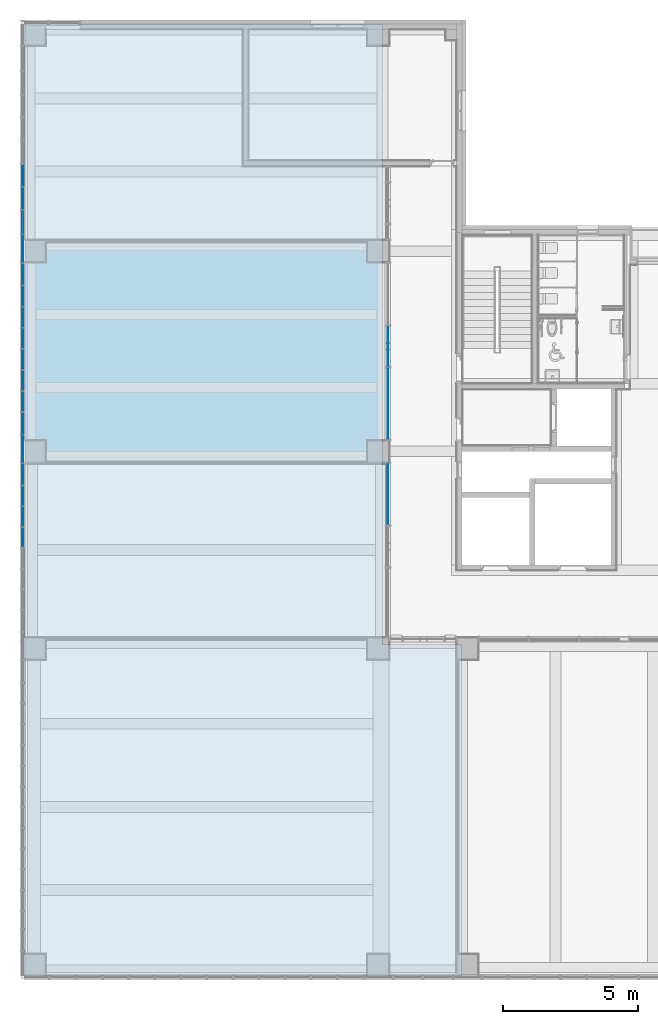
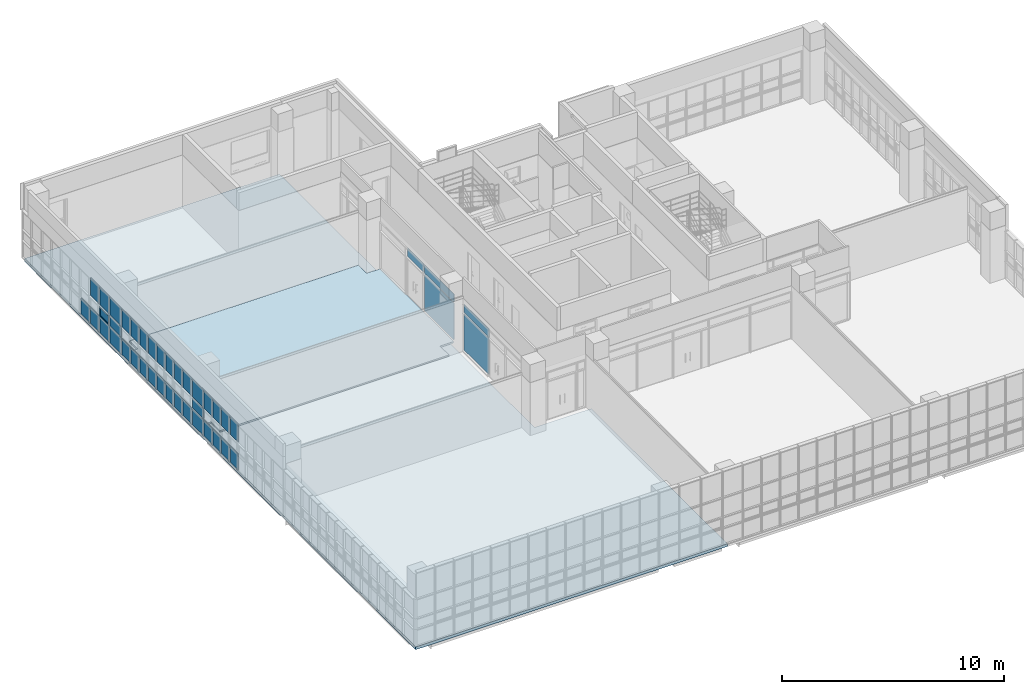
# One storey, part 33 of 76: 41 plates, 2 slabs, 3 elements without a shape of their own.
"""IFC2X3 building model written with IfcOpenShell, lengths in millimetres."""

import ifcopenshell
import ifcopenshell.guid

model = None  # the IFC model being written
_history = None  # IfcOwnerHistory: only IFC2X3 demands one
_inside = {}  # id of a spatial element -> (the spatial element, [elements in it])
_under = {}  # id of a project, library or spatial element -> (it, [spatial elements below it])
_declared = {}  # id of a project -> (the project, [libraries it declares])
_typed = {}  # id of a type object -> (the type object, [elements of that type])
_made_of = {}  # id of a material, layer set ... -> (it, [elements and type objects made of it])


def new_model(schema):
    """Start an empty IFC model of exactly this schema.

    Asked for "IFC4X3", IfcOpenShell would pick the latest addendum, in which some entities
    have other attributes; the version numbers below select the first issue.
    IFC2X3 requires an IfcOwnerHistory on every rooted entity: one is made here for all.
    """
    global model, _history
    if schema == "IFC4X3":
        model = ifcopenshell.file(schema_version=(4, 3, 0, 0))
    else:
        model = ifcopenshell.file(schema=schema)
    _inside.clear()
    _under.clear()
    _declared.clear()
    _typed.clear()
    _made_of.clear()
    _history = None
    if model.schema == "IFC2X3":
        org = make("IfcOrganization", Name="unknown")
        user = make(
            "IfcPersonAndOrganization",
            ThePerson=make("IfcPerson", FamilyName="unknown"),
            TheOrganization=org,
        )
        app = make(
            "IfcApplication",
            ApplicationDeveloper=org,
            Version="unknown",
            ApplicationFullName="unknown",
            ApplicationIdentifier="unknown",
        )
        _history = make(
            "IfcOwnerHistory",
            OwningUser=user,
            OwningApplication=app,
            ChangeAction="ADDED",
            CreationDate=0,
        )
    return model


def make(cls, **values):
    """One entity of the class cls with the attributes given. An attribute that is None is left unset."""
    return model.create_entity(
        cls, **{name: value for name, value in values.items() if value is not None}
    )


def entity(cls, *values):
    """Any entity or typed value of the class cls, its attributes in the order of the schema. None: left unset."""
    e = model.create_entity(cls)
    for i, value in enumerate(values):
        if value is not None:
            e[i] = value
    return e


def rooted(cls, **values):
    """An entity with a GlobalId (a new one), such as an element, a storey or a relation."""
    return make(cls, GlobalId=ifcopenshell.guid.new(), OwnerHistory=_history, **values)


def si_unit(unit_type, name, prefix=None):
    """IfcSIUnit, for example si_unit("LENGTHUNIT", "METRE", prefix="MILLI")."""
    return make("IfcSIUnit", UnitType=unit_type, Prefix=prefix, Name=name)


def converted_unit(unit_type, name, factor, base, dimensions=None, offset=None):
    """IfcConversionBasedUnit, such as the inch: factor (a typed value) times the base unit."""
    return make(
        "IfcConversionBasedUnit"
        if offset is None
        else "IfcConversionBasedUnitWithOffset",
        ConversionOffset=offset,
        Dimensions=None
        if dimensions is None
        else entity("IfcDimensionalExponents", *dimensions),
        UnitType=unit_type,
        Name=name,
        ConversionFactor=make(
            "IfcMeasureWithUnit", ValueComponent=factor, UnitComponent=base
        ),
    )


def derived_unit(unit_type, elements):
    """IfcDerivedUnit: a product of units, each with its exponent."""
    return make(
        "IfcDerivedUnit",
        Elements=[
            make("IfcDerivedUnitElement", Unit=unit, Exponent=power)
            for unit, power in elements
        ],
        UnitType=unit_type,
    )


def assignment(units):
    """IfcUnitAssignment: the units of a project."""
    return None if units is None else make("IfcUnitAssignment", Units=units)


def point(xyz):
    """IfcCartesianPoint."""
    return None if xyz is None else make("IfcCartesianPoint", Coordinates=xyz)


def direction(xyz):
    """IfcDirection."""
    return None if xyz is None else make("IfcDirection", DirectionRatios=xyz)


def frame(location, z_axis=None, x_axis=None):
    """IfcAxis2Placement3D, a coordinate frame: its origin and axes. An axis left out is left unset."""
    return make(
        "IfcAxis2Placement3D",
        Location=point(location),
        Axis=direction(z_axis),
        RefDirection=direction(x_axis),
    )


def frame_2d(location, x_axis=None):
    """IfcAxis2Placement2D, a coordinate frame in the plane: its origin and x axis."""
    return make(
        "IfcAxis2Placement2D", Location=point(location), RefDirection=direction(x_axis)
    )


def origin():
    """The frame at (0, 0, 0) with its axes left unset."""
    return frame((0.0, 0.0, 0.0))


def origin_2d_with_axis():
    """The frame at (0, 0) in the plane with the x axis (1, 0) written out."""
    return frame_2d((0.0, 0.0), x_axis=(1.0, 0.0))


def place(relative_to, where):
    """IfcLocalPlacement: puts the frame where relative to a parent placement (None: the world)."""
    return make(
        "IfcLocalPlacement", PlacementRelTo=relative_to, RelativePlacement=where
    )


def context(
    kind, dimensions, precision=None, world=None, true_north=None, identifier=None
):
    """IfcGeometricRepresentationContext, for example the 3D "Model" context."""
    return make(
        "IfcGeometricRepresentationContext",
        ContextIdentifier=identifier,
        ContextType=kind,
        CoordinateSpaceDimension=dimensions,
        Precision=precision,
        WorldCoordinateSystem=world,
        TrueNorth=true_north,
    )


def subcontext(parent, identifier, kind, view, scale=None):
    """IfcGeometricRepresentationSubContext, for example "Body" below "Model"."""
    return make(
        "IfcGeometricRepresentationSubContext",
        ContextIdentifier=identifier,
        ContextType=kind,
        ParentContext=parent,
        TargetScale=scale,
        TargetView=view,
    )


def project(units=None, contexts=None):
    """IfcProject with its units and contexts."""
    return rooted(
        "IfcProject",
        Name="project",
        RepresentationContexts=contexts,
        UnitsInContext=assignment(units),
    )


def spatial(cls, under=None, at=None, **own):
    """A site, building, storey or space (cls), placed at a placement, below another one or the project."""
    s = rooted(cls, ObjectPlacement=at, **own)
    if under is not None:
        _under.setdefault(under.id(), (under, []))[1].append(s)
    return s


def polyline(points):
    """IfcPolyline through the points."""
    return make("IfcPolyline", Points=[point(p) for p in points])


def profile(cls, at=None, kind="AREA", **sizes):
    """A parametric profile (cls). Its sizes go by their IFC names, for example OverallWidth=200.0."""
    return make(cls, ProfileType=kind, Position=at, **sizes)


def rectangle(**sizes):
    """IfcRectangleProfileDef."""
    return profile("IfcRectangleProfileDef", **sizes)


def outline(outer, holes=None, kind="AREA"):
    """IfcArbitraryClosedProfileDef: a profile drawn as a closed curve; with holes, ...WithVoids."""
    if holes is None:
        return make("IfcArbitraryClosedProfileDef", ProfileType=kind, OuterCurve=outer)
    return make(
        "IfcArbitraryProfileDefWithVoids",
        ProfileType=kind,
        OuterCurve=outer,
        InnerCurves=holes,
    )


def extrude(swept, where, along, depth):
    """IfcExtrudedAreaSolid: the profile swept, set in the frame where, extruded along a direction by depth."""
    return make(
        "IfcExtrudedAreaSolid",
        SweptArea=swept,
        Position=where,
        ExtrudedDirection=direction(along),
        Depth=depth,
    )


def shape(context_of_items, identifier, shape_type, items):
    """IfcShapeRepresentation: the items that make up one representation, for example the "Body"."""
    return make(
        "IfcShapeRepresentation",
        ContextOfItems=context_of_items,
        RepresentationIdentifier=identifier,
        RepresentationType=shape_type,
        Items=items,
    )


def source(mapping_origin, context_of_items, identifier, shape_type, items):
    """IfcRepresentationMap: a shape defined once, which mapped items show again and again."""
    return make(
        "IfcRepresentationMap",
        MappingOrigin=mapping_origin,
        MappedRepresentation=shape(context_of_items, identifier, shape_type, items),
    )


def transform(
    local_origin,
    x_axis=None,
    y_axis=None,
    z_axis=None,
    scale=None,
    scale2=None,
    scale3=None,
    uniform=True,
):
    """IfcCartesianTransformationOperator3D, or its non-uniform kind. x_axis, y_axis, z_axis: its Axis1, 2, 3."""
    if uniform:
        return make(
            "IfcCartesianTransformationOperator3D",
            Axis1=direction(x_axis),
            Axis2=direction(y_axis),
            LocalOrigin=point(local_origin),
            Scale=scale,
            Axis3=direction(z_axis),
        )
    return make(
        "IfcCartesianTransformationOperator3DnonUniform",
        Axis1=direction(x_axis),
        Axis2=direction(y_axis),
        LocalOrigin=point(local_origin),
        Scale=scale,
        Axis3=direction(z_axis),
        Scale2=scale2,
        Scale3=scale3,
    )


def mapped(mapping_source, mapping_target):
    """IfcMappedItem: shows the shape of a source again, moved by a transform."""
    return make(
        "IfcMappedItem", MappingSource=mapping_source, MappingTarget=mapping_target
    )


def material(Name=None, Category=None):
    """IfcMaterial."""
    return make("IfcMaterial", Name=Name, Category=Category)


def material_list(materials):
    """IfcMaterialList."""
    return make("IfcMaterialList", Materials=materials)


def layer(
    of_material, thickness, ventilated=None, Name=None, Category=None, Priority=None
):
    """IfcMaterialLayer: one layer of a wall or slab, of a material (None: an air gap)."""
    return make(
        "IfcMaterialLayer",
        Material=of_material,
        LayerThickness=thickness,
        IsVentilated=ventilated,
        Name=Name,
        Category=Category,
        Priority=Priority,
    )


def layer_set(layers, Name=None):
    """IfcMaterialLayerSet."""
    return make("IfcMaterialLayerSet", MaterialLayers=layers, LayerSetName=Name)


def layer_usage(for_layer_set, set_direction, sense, offset, extent=None):
    """IfcMaterialLayerSetUsage: how a layer set lies in its element."""
    return make(
        "IfcMaterialLayerSetUsage",
        ForLayerSet=for_layer_set,
        LayerSetDirection=set_direction,
        DirectionSense=sense,
        OffsetFromReferenceLine=offset,
        ReferenceExtent=extent,
    )


def made_of(thing, what):
    """Note that an element or type object is made of a material, layer set ...; save() writes the relation."""
    if what is not None:
        _made_of.setdefault(what.id(), (what, []))[1].append(thing)
    return thing


def type_object(cls, material=None, **own):
    """A type object (cls), such as IfcWallType, which elements share."""
    return made_of(rooted(cls, **own), material)


def type_shapes(of_type, sources):
    """Give a type object the sources (RepresentationMaps) that its elements show as mapped items."""
    of_type.RepresentationMaps = sources


def element(
    cls,
    number,
    at=None,
    inside=None,
    cuts=None,
    type_object=None,
    material=None,
    context=None,
    identifier="Body",
    shape_type=None,
    held_by="IfcProductDefinitionShape",
    body=None,
    shapes=None,
    **own,
):
    """One element of the class cls, such as IfcWall. Its Tag is "e" and its number.

    at: its placement. inside: the storey or other place that contains it. cuts: it is an
    opening in that element (IfcRelVoidsElement). A single representation is given by context,
    identifier, shape_type and body (its items); several are given by shapes. held_by: the class
    of the entity that holds the representations. save() writes the other relations.
    """
    e = rooted(cls, Tag="e%d" % number, ObjectPlacement=at, **own)
    if body is not None:
        shapes = [shape(context, identifier, shape_type, body)]
    if shapes is not None:
        e.Representation = make(held_by, Representations=shapes)
    if inside is not None:
        _inside.setdefault(inside.id(), (inside, []))[1].append(e)
    if cuts is not None:
        rooted(
            "IfcRelVoidsElement", RelatingBuildingElement=cuts, RelatedOpeningElement=e
        )
    if type_object is not None:
        _typed.setdefault(type_object.id(), (type_object, []))[1].append(e)
    return made_of(e, material)


def aggregate(whole, parts):
    """IfcRelAggregates: a whole, such as a stair, and the parts it consists of."""
    return rooted("IfcRelAggregates", RelatingObject=whole, RelatedObjects=parts)


def save(model, path):
    """Write the relations noted so far, then the file.

    IfcRelAggregates (storeys below a building ...), IfcRelContainedInSpatialStructure (elements
    in a storey), IfcRelDefinesByType, IfcRelAssociatesMaterial and IfcRelDeclares: one each for
    every whole, place, type object, material and project.
    """
    for whole, parts in _under.values():
        aggregate(whole, parts)
    for where, things in _inside.values():
        rooted(
            "IfcRelContainedInSpatialStructure",
            RelatedElements=things,
            RelatingStructure=where,
        )
    for kind, things in _typed.values():
        rooted("IfcRelDefinesByType", RelatedObjects=things, RelatingType=kind)
    for what, things in _made_of.values():
        rooted("IfcRelAssociatesMaterial", RelatedObjects=things, RelatingMaterial=what)
    for by, libraries in _declared.values():
        rooted("IfcRelDeclares", RelatingContext=by, RelatedDefinitions=libraries)
    model.write(path)


model = new_model("IFC2X3")

# Units and contexts
model_context = context("Model", 3, precision=0.01, world=origin(), true_north=direction((6.123031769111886e-17, 1.0)))
body_context = subcontext(model_context, "Body", "Model", "MODEL_VIEW")
ifc_project = project(units=[si_unit("LENGTHUNIT", "METRE", prefix="MILLI"), si_unit("AREAUNIT", "SQUARE_METRE"), si_unit("VOLUMEUNIT", "CUBIC_METRE"), converted_unit("PLANEANGLEUNIT", "DEGREE", entity("IfcRatioMeasure", 0.017453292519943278), si_unit("PLANEANGLEUNIT", "RADIAN"), dimensions=[0, 0, 0, 0, 0, 0, 0]), si_unit("MASSUNIT", "GRAM", prefix="KILO"), derived_unit("MASSDENSITYUNIT", [(si_unit("MASSUNIT", "GRAM", prefix="KILO"), 1), (si_unit("LENGTHUNIT", "METRE"), -3)]), derived_unit("MOMENTOFINERTIAUNIT", [(si_unit("LENGTHUNIT", "METRE"), 4)]), si_unit("TIMEUNIT", "SECOND"), si_unit("FREQUENCYUNIT", "HERTZ"), si_unit("THERMODYNAMICTEMPERATUREUNIT", "DEGREE_CELSIUS"), derived_unit("THERMALTRANSMITTANCEUNIT", [(si_unit("MASSUNIT", "GRAM", prefix="KILO"), 1), (si_unit("THERMODYNAMICTEMPERATUREUNIT", "KELVIN"), -1), (si_unit("TIMEUNIT", "SECOND"), -3)]), derived_unit("VOLUMETRICFLOWRATEUNIT", [(si_unit("LENGTHUNIT", "METRE"), 3), (si_unit("TIMEUNIT", "SECOND"), -1)]), derived_unit("MASSFLOWRATEUNIT", [(si_unit("MASSUNIT", "GRAM", prefix="KILO"), 1), (si_unit("TIMEUNIT", "SECOND"), -1)]), derived_unit("ROTATIONALFREQUENCYUNIT", [(si_unit("TIMEUNIT", "SECOND"), -1)]), si_unit("ELECTRICCURRENTUNIT", "AMPERE"), si_unit("ELECTRICVOLTAGEUNIT", "VOLT"), si_unit("POWERUNIT", "WATT"), si_unit("FORCEUNIT", "NEWTON", prefix="KILO"), si_unit("ILLUMINANCEUNIT", "LUX"), si_unit("LUMINOUSFLUXUNIT", "LUMEN"), si_unit("LUMINOUSINTENSITYUNIT", "CANDELA"), derived_unit("USERDEFINED", [(si_unit("MASSUNIT", "GRAM", prefix="KILO"), -1), (si_unit("LENGTHUNIT", "METRE"), -2), (si_unit("TIMEUNIT", "SECOND"), 3), (si_unit("LUMINOUSFLUXUNIT", "LUMEN"), 1)]), derived_unit("SOUNDPOWERUNIT", [(si_unit("MASSUNIT", "GRAM", prefix="KILO"), 1), (si_unit("LENGTHUNIT", "METRE"), 2), (si_unit("TIMEUNIT", "SECOND"), -3)]), derived_unit("SOUNDPRESSUREUNIT", [(si_unit("MASSUNIT", "GRAM", prefix="KILO"), 1), (si_unit("LENGTHUNIT", "METRE"), -1), (si_unit("TIMEUNIT", "SECOND"), -2)]), derived_unit("LINEARVELOCITYUNIT", [(si_unit("LENGTHUNIT", "METRE"), 1), (si_unit("TIMEUNIT", "SECOND"), -1)]), si_unit("PRESSUREUNIT", "PASCAL"), derived_unit("USERDEFINED", [(si_unit("LENGTHUNIT", "METRE"), -2), (si_unit("MASSUNIT", "GRAM", prefix="KILO"), 1), (si_unit("TIMEUNIT", "SECOND"), -2)]), derived_unit("LINEARFORCEUNIT", [(si_unit("MASSUNIT", "GRAM", prefix="KILO"), 1), (si_unit("LENGTHUNIT", "METRE"), 1), (si_unit("TIMEUNIT", "SECOND"), -2), (si_unit("LENGTHUNIT", "METRE"), -1)]), derived_unit("PLANARFORCEUNIT", [(si_unit("MASSUNIT", "GRAM", prefix="KILO"), 1), (si_unit("LENGTHUNIT", "METRE"), 1), (si_unit("TIMEUNIT", "SECOND"), -2), (si_unit("LENGTHUNIT", "METRE"), -2)])], contexts=[model_context])

# Site, building, storey
site_placement = place(None, frame((-14167.972527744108, -657.2125860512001, 0.0)))
site = spatial("IfcSite", under=ifc_project, at=site_placement, Name="Default", CompositionType="ELEMENT")
building_placement = place(site_placement, origin())
building = spatial("IfcBuilding", under=site, at=building_placement, Name="Sample Building", CompositionType="ELEMENT")
storey_placement = place(building_placement, frame((0.0, 0.0, 9300.0)))
storey = spatial("IfcBuildingStorey", under=building, at=storey_placement, Name="지상 3층", CompositionType="ELEMENT", Elevation=9300.000000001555)

# Slab
ifc_material_1 = material(Name="KBIMS-콘크리트")
ifc_layer_1 = layer(ifc_material_1, 150.0)
ifc_layer_set_1 = layer_set([ifc_layer_1], Name="바닥:SL111-철근콘크리트구조 바닥 150mm_S1")
ifc_layer_usage_1 = layer_usage(ifc_layer_set_1, "AXIS3", "POSITIVE", 0.0)
slab_type_1 = type_object("IfcSlabType", Name="바닥:SL111-철근콘크리트구조 바닥 150mm_S1", PredefinedType="FLOOR", material=ifc_layer_set_1)
slab_1_placement = place(storey_placement, origin())
element("IfcSlab", 1, at=slab_1_placement, inside=storey, type_object=slab_type_1, material=ifc_layer_usage_1, Name="바닥:SL111-철근콘크리트구조 바닥 150mm_S1", ObjectType="바닥:SL111-철근콘크리트구조 바닥 150mm_S1", PredefinedType="FLOOR", context=body_context, shape_type="SweptSolid", body=[
    extrude(outline(polyline([(-15816.666733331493, -9816.694598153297), (19383.333366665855, -9816.694598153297), (19383.333366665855, 3433.331560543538), (-3566.666633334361, 3433.3315605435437), (-3566.6666333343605, 6383.314094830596), (-15816.666733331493, 6383.314094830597), (-15816.666733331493, -9816.694598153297)])), frame((23884.649703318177, 16373.878928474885, 0.0), z_axis=(0.0, 0.0, -1.0), x_axis=(0.0, 1.0, 0.0)), (0.0, 0.0, 1.0), 150.00000000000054),
])

# Curtain wall, plates
curtain_wall_type = type_object("IfcCurtainWallType", Name="커튼월:CW112-스테인리스 스틸 커튼월", PredefinedType="NOTDEFINED")
curtain_wall_1_placement = place(storey_placement, frame((0.0, 0.0, -9300.0)))
curtain_wall_1 = element("IfcCurtainWall", 2, at=curtain_wall_1_placement, inside=storey, type_object=curtain_wall_type, Name="커튼월:CW112-스테인리스 스틸 커튼월", ObjectType="커튼월:CW112-스테인리스 스틸 커튼월")
ifc_material_2 = material(Name="KBIMS-로이유리(코팅)")
plate_type_1 = type_object("IfcPlateType", Name="CW300-THK24.Low-e coating glass:CW300-THK24.Low-e coating glass", PredefinedType="CURTAIN_PANEL", material=ifc_material_2)
shared_shape_1 = source(origin(), body_context, "Body", "SweptSolid", [
    extrude(rectangle(XDim=2634.9999999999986, YDim=24.000000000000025, at=origin_2d_with_axis()), frame((0.0, 0.0, 0.0), z_axis=(0.0, 0.0, 1.0), x_axis=(-1.0, 0.0, 0.0)), (0.0, 0.0, 1.0), 2024.9999999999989),
])
type_shapes(plate_type_1, [shared_shape_1])
plate_1_placement = place(curtain_wall_1_placement, frame((27522.95510516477, 21724.712307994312, 9430.0), z_axis=(0.0, 0.0, 1.0), x_axis=(0.0, -1.0, 0.0)))
plate_1 = element("IfcPlate", 3, at=plate_1_placement, type_object=plate_type_1, material=ifc_material_2, Name="CW300-THK24.Low-e coating glass:CW300-THK24.Low-e coating glass", ObjectType="CW300-THK24.Low-e coating glass:CW300-THK24.Low-e coating glass", context=body_context, shape_type="MappedRepresentation", body=[
    mapped(shared_shape_1, transform((0.0, 0.0, 0.0), scale=1.0)),
])
plate_type_2 = type_object("IfcPlateType", Name="CW300-THK24.Low-e coating glass:CW300-THK24.Low-e coating glass", PredefinedType="CURTAIN_PANEL", material=ifc_material_2)
shared_shape_2 = source(origin(), body_context, "Body", "SweptSolid", [
    extrude(rectangle(XDim=1500.0000000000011, YDim=24.000000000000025, at=origin_2d_with_axis()), frame((0.0, 0.0, 0.0), z_axis=(0.0, 0.0, 1.0), x_axis=(-1.0, 0.0, 0.0)), (0.0, 0.0, 1.0), 445.00000000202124),
])
type_shapes(plate_type_2, [shared_shape_2])
plate_2_placement = place(curtain_wall_1_placement, frame((27522.955105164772, 23842.21230799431, 11505.0), z_axis=(0.0, 0.0, 1.0), x_axis=(0.0, -1.0, 0.0)))
plate_2 = element("IfcPlate", 4, at=plate_2_placement, type_object=plate_type_2, material=ifc_material_2, Name="CW300-THK24.Low-e coating glass:CW300-THK24.Low-e coating glass", ObjectType="CW300-THK24.Low-e coating glass:CW300-THK24.Low-e coating glass", context=body_context, shape_type="MappedRepresentation", body=[
    mapped(shared_shape_2, transform((0.0, 0.0, 0.0), scale=1.0)),
])
plate_type_3 = type_object("IfcPlateType", Name="CW300-THK24.Low-e coating glass:CW300-THK24.Low-e coating glass", PredefinedType="CURTAIN_PANEL", material=ifc_material_2)
shared_shape_3 = source(origin(), body_context, "Body", "SweptSolid", [
    extrude(rectangle(XDim=2634.9999999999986, YDim=24.000000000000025, at=origin_2d_with_axis()), frame((0.0, 0.0, 0.0), z_axis=(0.0, 0.0, 1.0), x_axis=(-1.0, 0.0, 0.0)), (0.0, 0.0, 1.0), 445.00000000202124),
])
type_shapes(plate_type_3, [shared_shape_3])
plate_3_placement = place(curtain_wall_1_placement, frame((27522.95510516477, 21724.712307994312, 11505.0), z_axis=(0.0, 0.0, 1.0), x_axis=(0.0, -1.0, 0.0)))
plate_3 = element("IfcPlate", 5, at=plate_3_placement, type_object=plate_type_3, material=ifc_material_2, Name="CW300-THK24.Low-e coating glass:CW300-THK24.Low-e coating glass", ObjectType="CW300-THK24.Low-e coating glass:CW300-THK24.Low-e coating glass", context=body_context, shape_type="MappedRepresentation", body=[
    mapped(shared_shape_3, transform((0.0, 0.0, 0.0), scale=1.0)),
])
aggregate(curtain_wall_1, [plate_1, plate_2, plate_3])

# Curtain wall, plate
curtain_wall_2_placement = place(storey_placement, frame((0.0, 0.0, -9300.0)))
curtain_wall_2 = element("IfcCurtainWall", 6, at=curtain_wall_2_placement, inside=storey, type_object=curtain_wall_type, Name="커튼월:CW112-스테인리스 스틸 커튼월", ObjectType="커튼월:CW112-스테인리스 스틸 커튼월")
plate_type_4 = type_object("IfcPlateType", Name="CW300-THK24.Low-e coating glass:CW300-THK24.Low-e coating glass", PredefinedType="CURTAIN_PANEL", material=ifc_material_2)
shared_shape_4 = source(origin(), body_context, "Body", "SweptSolid", [
    extrude(rectangle(XDim=2265.03499264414, YDim=24.000000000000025, at=origin_2d_with_axis()), frame((0.0, 0.0, 0.0), z_axis=(0.0, 0.0, 1.0), x_axis=(-1.0, 0.0, 0.0)), (0.0, 0.0, 1.0), 445.0000000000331),
])
type_shapes(plate_type_4, [shared_shape_4])
plate_4_placement = place(curtain_wall_2_placement, frame((27522.955105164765, 18374.695120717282, 11505.0), z_axis=(0.0, 0.0, 1.0), x_axis=(0.0, -1.0, 0.0)))
plate_4 = element("IfcPlate", 7, at=plate_4_placement, type_object=plate_type_4, material=ifc_material_2, Name="CW300-THK24.Low-e coating glass:CW300-THK24.Low-e coating glass", ObjectType="CW300-THK24.Low-e coating glass:CW300-THK24.Low-e coating glass", context=body_context, shape_type="MappedRepresentation", body=[
    mapped(shared_shape_4, transform((0.0, 0.0, 0.0), scale=1.0)),
])

# Curtain wall, plates
curtain_wall_3_placement = place(storey_placement, frame((0.0, 0.0, -9300.0)))
curtain_wall_3 = element("IfcCurtainWall", 8, at=curtain_wall_3_placement, inside=storey, type_object=curtain_wall_type, Name="커튼월:CW112-스테인리스 스틸 커튼월", ObjectType="커튼월:CW112-스테인리스 스틸 커튼월")
plate_type_5 = type_object("IfcPlateType", Name="CW300-THK24.Low-e coating glass:CW300-THK24.Low-e coating glass", PredefinedType="CURTAIN_PANEL", material=ifc_material_2)
shared_shape_5 = source(origin(), body_context, "Body", "SweptSolid", [
    extrude(rectangle(XDim=804.0000000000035, YDim=24.000000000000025, at=origin_2d_with_axis()), frame((0.0, 0.0, 0.0), z_axis=(0.0, 0.0, 1.0), x_axis=(-1.0, 0.0, 0.0)), (0.0, 0.0, 1.0), 875.0000000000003),
])
type_shapes(plate_type_5, [shared_shape_5])
plate_5_placement = place(curtain_wall_3_placement, frame((14018.587904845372, 30166.81770709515, 9430.0), z_axis=(0.0, 0.0, 1.0), x_axis=(0.0, -1.0, 0.0)))
plate_5 = element("IfcPlate", 9, at=plate_5_placement, type_object=plate_type_5, material=ifc_material_2, Name="CW300-THK24.Low-e coating glass:CW300-THK24.Low-e coating glass", ObjectType="CW300-THK24.Low-e coating glass:CW300-THK24.Low-e coating glass", context=body_context, shape_type="MappedRepresentation", body=[
    mapped(shared_shape_5, transform((0.0, 0.0, 0.0), scale=1.0)),
])
plate_6_placement = place(curtain_wall_3_placement, frame((14018.587904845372, 29312.817707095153, 9430.0), z_axis=(0.0, 0.0, 1.0), x_axis=(0.0, -1.0, 0.0)))
plate_6 = element("IfcPlate", 10, at=plate_6_placement, type_object=plate_type_5, material=ifc_material_2, Name="CW300-THK24.Low-e coating glass:CW300-THK24.Low-e coating glass", ObjectType="CW300-THK24.Low-e coating glass:CW300-THK24.Low-e coating glass", context=body_context, shape_type="MappedRepresentation", body=[
    mapped(shared_shape_5, transform((0.0, 0.0, 0.0), scale=1.0)),
])
plate_type_6 = type_object("IfcPlateType", Name="CW300-THK24.Low-e coating glass:CW300-THK24.Low-e coating glass", PredefinedType="CURTAIN_PANEL", material=ifc_material_2)
shared_shape_6 = source(origin(), body_context, "Body", "SweptSolid", [
    extrude(rectangle(XDim=864.0000000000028, YDim=24.000000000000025, at=origin_2d_with_axis()), frame((0.0, 0.0, 0.0), z_axis=(0.0, 0.0, 1.0), x_axis=(-1.0, 0.0, 0.0)), (0.0, 0.0, 1.0), 875.0000000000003),
])
type_shapes(plate_type_6, [shared_shape_6])
plate_7_placement = place(curtain_wall_3_placement, frame((14018.58790484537, 28428.81770709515, 9430.0), z_axis=(0.0, 0.0, 1.0), x_axis=(0.0, -1.0, 0.0)))
plate_7 = element("IfcPlate", 11, at=plate_7_placement, type_object=plate_type_6, material=ifc_material_2, Name="CW300-THK24.Low-e coating glass:CW300-THK24.Low-e coating glass", ObjectType="CW300-THK24.Low-e coating glass:CW300-THK24.Low-e coating glass", context=body_context, shape_type="MappedRepresentation", body=[
    mapped(shared_shape_6, transform((0.0, 0.0, 0.0), scale=1.0)),
])
plate_type_7 = type_object("IfcPlateType", Name="CW300-THK24.Low-e coating glass:CW300-THK24.Low-e coating glass", PredefinedType="CURTAIN_PANEL", material=ifc_material_2)
shared_shape_7 = source(origin(), body_context, "Body", "SweptSolid", [
    extrude(rectangle(XDim=1000.0000000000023, YDim=24.000000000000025, at=origin_2d_with_axis()), frame((0.0, 0.0, 0.0), z_axis=(0.0, 0.0, 1.0), x_axis=(-1.0, 0.0, 0.0)), (0.0, 0.0, 1.0), 875.0000000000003),
])
type_shapes(plate_type_7, [shared_shape_7])
plate_8_placement = place(curtain_wall_3_placement, frame((14018.587904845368, 27446.817707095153, 9430.0), z_axis=(0.0, 0.0, 1.0), x_axis=(0.0, -1.0, 0.0)))
plate_8 = element("IfcPlate", 12, at=plate_8_placement, type_object=plate_type_7, material=ifc_material_2, Name="CW300-THK24.Low-e coating glass:CW300-THK24.Low-e coating glass", ObjectType="CW300-THK24.Low-e coating glass:CW300-THK24.Low-e coating glass", context=body_context, shape_type="MappedRepresentation", body=[
    mapped(shared_shape_7, transform((0.0, 0.0, 0.0), scale=1.0)),
])
plate_9_placement = place(curtain_wall_3_placement, frame((14018.587904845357, 20044.81770709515, 9430.0), z_axis=(0.0, 0.0, 1.0), x_axis=(0.0, -1.0, 0.0)))
plate_9 = element("IfcPlate", 13, at=plate_9_placement, type_object=plate_type_7, material=ifc_material_2, Name="CW300-THK24.Low-e coating glass:CW300-THK24.Low-e coating glass", ObjectType="CW300-THK24.Low-e coating glass:CW300-THK24.Low-e coating glass", context=body_context, shape_type="MappedRepresentation", body=[
    mapped(shared_shape_7, transform((0.0, 0.0, 0.0), scale=1.0)),
])
plate_type_8 = type_object("IfcPlateType", Name="CW300-THK24.Low-e coating glass:CW300-THK24.Low-e coating glass", PredefinedType="CURTAIN_PANEL", material=ifc_material_2)
shared_shape_8 = source(origin(), body_context, "Body", "SweptSolid", [
    extrude(rectangle(XDim=789.0000000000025, YDim=24.000000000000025, at=origin_2d_with_axis()), frame((0.0, 0.0, 0.0), z_axis=(0.0, 0.0, 1.0), x_axis=(-1.0, 0.0, 0.0)), (0.0, 0.0, 1.0), 875.0000000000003),
])
type_shapes(plate_type_8, [shared_shape_8])
plate_10_placement = place(curtain_wall_3_placement, frame((14018.587904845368, 26502.31770709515, 9430.0), z_axis=(0.0, 0.0, 1.0), x_axis=(0.0, -1.0, 0.0)))
plate_10 = element("IfcPlate", 14, at=plate_10_placement, type_object=plate_type_8, material=ifc_material_2, Name="CW300-THK24.Low-e coating glass:CW300-THK24.Low-e coating glass", ObjectType="CW300-THK24.Low-e coating glass:CW300-THK24.Low-e coating glass", context=body_context, shape_type="MappedRepresentation", body=[
    mapped(shared_shape_8, transform((0.0, 0.0, 0.0), scale=1.0)),
])
plate_11_placement = place(curtain_wall_3_placement, frame((14018.587904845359, 20989.317707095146, 9430.0), z_axis=(0.0, 0.0, 1.0), x_axis=(0.0, -1.0, 0.0)))
plate_11 = element("IfcPlate", 15, at=plate_11_placement, type_object=plate_type_8, material=ifc_material_2, Name="CW300-THK24.Low-e coating glass:CW300-THK24.Low-e coating glass", ObjectType="CW300-THK24.Low-e coating glass:CW300-THK24.Low-e coating glass", context=body_context, shape_type="MappedRepresentation", body=[
    mapped(shared_shape_8, transform((0.0, 0.0, 0.0), scale=1.0)),
])
plate_type_9 = type_object("IfcPlateType", Name="CW300-THK24.Low-e coating glass:CW300-THK24.Low-e coating glass", PredefinedType="CURTAIN_PANEL", material=ifc_material_2)
shared_shape_9 = source(origin(), body_context, "Body", "SweptSolid", [
    extrude(rectangle(XDim=729.0000000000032, YDim=24.000000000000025, at=origin_2d_with_axis()), frame((0.0, 0.0, 0.0), z_axis=(0.0, 0.0, 1.0), x_axis=(-1.0, 0.0, 0.0)), (0.0, 0.0, 1.0), 875.0000000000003),
])
type_shapes(plate_type_9, [shared_shape_9])
plate_12_placement = place(curtain_wall_3_placement, frame((14018.587904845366, 25693.317707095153, 9430.0), z_axis=(0.0, 0.0, 1.0), x_axis=(0.0, -1.0, 0.0)))
plate_12 = element("IfcPlate", 16, at=plate_12_placement, type_object=plate_type_9, material=ifc_material_2, Name="CW300-THK24.Low-e coating glass:CW300-THK24.Low-e coating glass", ObjectType="CW300-THK24.Low-e coating glass:CW300-THK24.Low-e coating glass", context=body_context, shape_type="MappedRepresentation", body=[
    mapped(shared_shape_9, transform((0.0, 0.0, 0.0), scale=1.0)),
])
plate_13_placement = place(curtain_wall_3_placement, frame((14018.587904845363, 24914.317707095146, 9430.0), z_axis=(0.0, 0.0, 1.0), x_axis=(0.0, -1.0, 0.0)))
plate_13 = element("IfcPlate", 17, at=plate_13_placement, type_object=plate_type_9, material=ifc_material_2, Name="CW300-THK24.Low-e coating glass:CW300-THK24.Low-e coating glass", ObjectType="CW300-THK24.Low-e coating glass:CW300-THK24.Low-e coating glass", context=body_context, shape_type="MappedRepresentation", body=[
    mapped(shared_shape_9, transform((0.0, 0.0, 0.0), scale=1.0)),
])
plate_14_placement = place(curtain_wall_3_placement, frame((14018.587904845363, 24135.317707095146, 9430.0), z_axis=(0.0, 0.0, 1.0), x_axis=(0.0, -1.0, 0.0)))
plate_14 = element("IfcPlate", 18, at=plate_14_placement, type_object=plate_type_9, material=ifc_material_2, Name="CW300-THK24.Low-e coating glass:CW300-THK24.Low-e coating glass", ObjectType="CW300-THK24.Low-e coating glass:CW300-THK24.Low-e coating glass", context=body_context, shape_type="MappedRepresentation", body=[
    mapped(shared_shape_9, transform((0.0, 0.0, 0.0), scale=1.0)),
])
plate_15_placement = place(curtain_wall_3_placement, frame((14018.58790484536, 23356.317707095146, 9430.0), z_axis=(0.0, 0.0, 1.0), x_axis=(0.0, -1.0, 0.0)))
plate_15 = element("IfcPlate", 19, at=plate_15_placement, type_object=plate_type_9, material=ifc_material_2, Name="CW300-THK24.Low-e coating glass:CW300-THK24.Low-e coating glass", ObjectType="CW300-THK24.Low-e coating glass:CW300-THK24.Low-e coating glass", context=body_context, shape_type="MappedRepresentation", body=[
    mapped(shared_shape_9, transform((0.0, 0.0, 0.0), scale=1.0)),
])
plate_16_placement = place(curtain_wall_3_placement, frame((14018.58790484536, 22577.31770709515, 9430.0), z_axis=(0.0, 0.0, 1.0), x_axis=(0.0, -1.0, 0.0)))
plate_16 = element("IfcPlate", 20, at=plate_16_placement, type_object=plate_type_9, material=ifc_material_2, Name="CW300-THK24.Low-e coating glass:CW300-THK24.Low-e coating glass", ObjectType="CW300-THK24.Low-e coating glass:CW300-THK24.Low-e coating glass", context=body_context, shape_type="MappedRepresentation", body=[
    mapped(shared_shape_9, transform((0.0, 0.0, 0.0), scale=1.0)),
])
plate_17_placement = place(curtain_wall_3_placement, frame((14018.587904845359, 21798.317707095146, 9430.0), z_axis=(0.0, 0.0, 1.0), x_axis=(0.0, -1.0, 0.0)))
plate_17 = element("IfcPlate", 21, at=plate_17_placement, type_object=plate_type_9, material=ifc_material_2, Name="CW300-THK24.Low-e coating glass:CW300-THK24.Low-e coating glass", ObjectType="CW300-THK24.Low-e coating glass:CW300-THK24.Low-e coating glass", context=body_context, shape_type="MappedRepresentation", body=[
    mapped(shared_shape_9, transform((0.0, 0.0, 0.0), scale=1.0)),
])
plate_type_10 = type_object("IfcPlateType", Name="CW300-THK24.Low-e coating glass:CW300-THK24.Low-e coating glass", PredefinedType="CURTAIN_PANEL", material=ifc_material_2)
shared_shape_10 = source(origin(), body_context, "Body", "SweptSolid", [
    extrude(rectangle(XDim=776.0000000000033, YDim=24.000000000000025, at=origin_2d_with_axis()), frame((0.0, 0.0, 0.0), z_axis=(0.0, 0.0, 1.0), x_axis=(-1.0, 0.0, 0.0)), (0.0, 0.0, 1.0), 875.0000000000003),
])
type_shapes(plate_type_10, [shared_shape_10])
plate_18_placement = place(curtain_wall_3_placement, frame((14018.587904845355, 19106.81770709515, 9430.0), z_axis=(0.0, 0.0, 1.0), x_axis=(0.0, -1.0, 0.0)))
plate_18 = element("IfcPlate", 22, at=plate_18_placement, type_object=plate_type_10, material=ifc_material_2, Name="CW300-THK24.Low-e coating glass:CW300-THK24.Low-e coating glass", ObjectType="CW300-THK24.Low-e coating glass:CW300-THK24.Low-e coating glass", context=body_context, shape_type="MappedRepresentation", body=[
    mapped(shared_shape_10, transform((0.0, 0.0, 0.0), scale=1.0)),
])
plate_type_11 = type_object("IfcPlateType", Name="CW300-THK24.Low-e coating glass:CW300-THK24.Low-e coating glass", PredefinedType="CURTAIN_PANEL", material=ifc_material_2)
shared_shape_11 = source(origin(), body_context, "Body", "SweptSolid", [
    extrude(rectangle(XDim=715.9999999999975, YDim=24.000000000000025, at=origin_2d_with_axis()), frame((0.0, 0.0, 0.0), z_axis=(0.0, 0.0, 1.0), x_axis=(-1.0, 0.0, 0.0)), (0.0, 0.0, 1.0), 875.0000000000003),
])
type_shapes(plate_type_11, [shared_shape_11])
plate_19_placement = place(curtain_wall_3_placement, frame((14018.587904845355, 18310.81770709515, 9430.0), z_axis=(0.0, 0.0, 1.0), x_axis=(0.0, -1.0, 0.0)))
plate_19 = element("IfcPlate", 23, at=plate_19_placement, type_object=plate_type_11, material=ifc_material_2, Name="CW300-THK24.Low-e coating glass:CW300-THK24.Low-e coating glass", ObjectType="CW300-THK24.Low-e coating glass:CW300-THK24.Low-e coating glass", context=body_context, shape_type="MappedRepresentation", body=[
    mapped(shared_shape_11, transform((0.0, 0.0, 0.0), scale=1.0)),
])
plate_20_placement = place(curtain_wall_3_placement, frame((14018.587904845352, 17544.81770709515, 9430.0), z_axis=(0.0, 0.0, 1.0), x_axis=(0.0, -1.0, 0.0)))
plate_20 = element("IfcPlate", 24, at=plate_20_placement, type_object=plate_type_11, material=ifc_material_2, Name="CW300-THK24.Low-e coating glass:CW300-THK24.Low-e coating glass", ObjectType="CW300-THK24.Low-e coating glass:CW300-THK24.Low-e coating glass", context=body_context, shape_type="MappedRepresentation", body=[
    mapped(shared_shape_11, transform((0.0, 0.0, 0.0), scale=1.0)),
])
plate_21_placement = place(curtain_wall_3_placement, frame((14018.587904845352, 16778.817707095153, 9430.0), z_axis=(0.0, 0.0, 1.0), x_axis=(0.0, -1.0, 0.0)))
plate_21 = element("IfcPlate", 25, at=plate_21_placement, type_object=plate_type_11, material=ifc_material_2, Name="CW300-THK24.Low-e coating glass:CW300-THK24.Low-e coating glass", ObjectType="CW300-THK24.Low-e coating glass:CW300-THK24.Low-e coating glass", context=body_context, shape_type="MappedRepresentation", body=[
    mapped(shared_shape_11, transform((0.0, 0.0, 0.0), scale=1.0)),
])
ifc_material_3 = material(Name="KBIMS-유리")
ifc_material_4 = material(Name="KBIMS-알루미늄")
ifc_material_list_1 = material_list([ifc_material_3, ifc_material_4])
ifc_material_list_2 = material_list([ifc_material_3, ifc_material_4])
plate_type_12 = type_object("IfcPlateType", Name="CW410-프로젝트 창:CW410-프로젝트 창 (하부개폐)", PredefinedType="CURTAIN_PANEL", material=ifc_material_list_2)
shared_shape_12 = source(origin(), body_context, "Body", "SweptSolid", [
    extrude(rectangle(XDim=764.0000000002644, YDim=23.999999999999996, at=origin_2d_with_axis()), frame((0.0, -0.04999999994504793, 50.0), z_axis=(0.0, 0.0, 1.0), x_axis=(-1.0, 0.0, 0.0)), (0.0, 0.0, 1.0), 450.0000000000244),
    extrude(outline(polyline([(-432.0, -275.0), (432.0, -275.0), (432.0, 275.0), (-432.0, 275.0), (-432.0, -275.0)]), holes=[polyline([(-382.0, -225.0), (-382.0, 225.0), (382.0, 225.0), (382.0, -225.0), (-382.0, -225.0)])]), frame((0.0, -50.04999999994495, 275.0), z_axis=(0.0, 1.0, 0.0), x_axis=(1.0, 0.0, 0.0)), (0.0, 0.0, 1.0), 99.99999999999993),
])
type_shapes(plate_type_12, [shared_shape_12])
plate_22_placement = place(curtain_wall_3_placement, frame((14018.58790484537, 28428.81770709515, 10355.0), z_axis=(0.0, 0.0, 1.0), x_axis=(0.0, -1.0, 0.0)))
plate_22 = element("IfcPlate", 26, at=plate_22_placement, type_object=plate_type_12, material=ifc_material_list_1, Name="CW410-프로젝트 창:CW410-프로젝트 창 (하부개폐)", ObjectType="CW410-프로젝트 창:CW410-프로젝트 창 (하부개폐)", context=body_context, shape_type="MappedRepresentation", body=[
    mapped(shared_shape_12, transform((0.0, 0.0, 0.0), scale=1.0)),
])
plate_type_13 = type_object("IfcPlateType", Name="CW300-THK24.Low-e coating glass:CW300-THK24.Low-e coating glass", PredefinedType="CURTAIN_PANEL", material=ifc_material_2)
shared_shape_13 = source(origin(), body_context, "Body", "SweptSolid", [
    extrude(rectangle(XDim=1000.0000000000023, YDim=24.000000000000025, at=origin_2d_with_axis()), frame((0.0, 0.0, 0.0), z_axis=(0.0, 0.0, 1.0), x_axis=(-1.0, 0.0, 0.0)), (0.0, 0.0, 1.0), 549.9999999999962),
])
type_shapes(plate_type_13, [shared_shape_13])
plate_23_placement = place(curtain_wall_3_placement, frame((14018.587904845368, 27446.817707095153, 10355.0), z_axis=(0.0, 0.0, 1.0), x_axis=(0.0, -1.0, 0.0)))
plate_23 = element("IfcPlate", 27, at=plate_23_placement, type_object=plate_type_13, material=ifc_material_2, Name="CW300-THK24.Low-e coating glass:CW300-THK24.Low-e coating glass", ObjectType="CW300-THK24.Low-e coating glass:CW300-THK24.Low-e coating glass", context=body_context, shape_type="MappedRepresentation", body=[
    mapped(shared_shape_13, transform((0.0, 0.0, 0.0), scale=1.0)),
])
plate_24_placement = place(curtain_wall_3_placement, frame((14018.587904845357, 20044.817707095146, 10355.0), z_axis=(0.0, 0.0, 1.0), x_axis=(0.0, -1.0, 0.0)))
plate_24 = element("IfcPlate", 28, at=plate_24_placement, type_object=plate_type_13, material=ifc_material_2, Name="CW300-THK24.Low-e coating glass:CW300-THK24.Low-e coating glass", ObjectType="CW300-THK24.Low-e coating glass:CW300-THK24.Low-e coating glass", context=body_context, shape_type="MappedRepresentation", body=[
    mapped(shared_shape_13, transform((0.0, 0.0, 0.0), scale=1.0)),
])
plate_type_14 = type_object("IfcPlateType", Name="CW300-THK24.Low-e coating glass:CW300-THK24.Low-e coating glass", PredefinedType="CURTAIN_PANEL", material=ifc_material_2)
shared_shape_14 = source(origin(), body_context, "Body", "SweptSolid", [
    extrude(rectangle(XDim=803.9999999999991, YDim=24.000000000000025, at=origin_2d_with_axis()), frame((0.0, 0.0, 0.0), z_axis=(0.0, 0.0, 1.0), x_axis=(-1.0, 0.0, 0.0)), (0.0, 0.0, 1.0), 995.0000000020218),
])
type_shapes(plate_type_14, [shared_shape_14])
plate_25_placement = place(curtain_wall_3_placement, frame((14018.587904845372, 29312.817707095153, 10955.0), z_axis=(0.0, 0.0, 1.0), x_axis=(0.0, -1.0, 0.0)))
plate_25 = element("IfcPlate", 29, at=plate_25_placement, type_object=plate_type_14, material=ifc_material_2, Name="CW300-THK24.Low-e coating glass:CW300-THK24.Low-e coating glass", ObjectType="CW300-THK24.Low-e coating glass:CW300-THK24.Low-e coating glass", context=body_context, shape_type="MappedRepresentation", body=[
    mapped(shared_shape_14, transform((0.0, 0.0, 0.0), scale=1.0)),
])
plate_type_15 = type_object("IfcPlateType", Name="CW300-THK24.Low-e coating glass:CW300-THK24.Low-e coating glass", PredefinedType="CURTAIN_PANEL", material=ifc_material_2)
shared_shape_15 = source(origin(), body_context, "Body", "SweptSolid", [
    extrude(rectangle(XDim=864.0000000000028, YDim=24.000000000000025, at=origin_2d_with_axis()), frame((0.0, 0.0, 0.0), z_axis=(0.0, 0.0, 1.0), x_axis=(-1.0, 0.0, 0.0)), (0.0, 0.0, 1.0), 995.0000000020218),
])
type_shapes(plate_type_15, [shared_shape_15])
plate_26_placement = place(curtain_wall_3_placement, frame((14018.58790484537, 28428.81770709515, 10955.0), z_axis=(0.0, 0.0, 1.0), x_axis=(0.0, -1.0, 0.0)))
plate_26 = element("IfcPlate", 30, at=plate_26_placement, type_object=plate_type_15, material=ifc_material_2, Name="CW300-THK24.Low-e coating glass:CW300-THK24.Low-e coating glass", ObjectType="CW300-THK24.Low-e coating glass:CW300-THK24.Low-e coating glass", context=body_context, shape_type="MappedRepresentation", body=[
    mapped(shared_shape_15, transform((0.0, 0.0, 0.0), scale=1.0)),
])
plate_type_16 = type_object("IfcPlateType", Name="CW300-THK24.Low-e coating glass:CW300-THK24.Low-e coating glass", PredefinedType="CURTAIN_PANEL", material=ifc_material_2)
shared_shape_16 = source(origin(), body_context, "Body", "SweptSolid", [
    extrude(rectangle(XDim=1000.0000000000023, YDim=24.000000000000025, at=origin_2d_with_axis()), frame((0.0, 0.0, 0.0), z_axis=(0.0, 0.0, 1.0), x_axis=(-1.0, 0.0, 0.0)), (0.0, 0.0, 1.0), 995.0000000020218),
])
type_shapes(plate_type_16, [shared_shape_16])
plate_27_placement = place(curtain_wall_3_placement, frame((14018.587904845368, 27446.817707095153, 10955.0), z_axis=(0.0, 0.0, 1.0), x_axis=(0.0, -1.0, 0.0)))
plate_27 = element("IfcPlate", 31, at=plate_27_placement, type_object=plate_type_16, material=ifc_material_2, Name="CW300-THK24.Low-e coating glass:CW300-THK24.Low-e coating glass", ObjectType="CW300-THK24.Low-e coating glass:CW300-THK24.Low-e coating glass", context=body_context, shape_type="MappedRepresentation", body=[
    mapped(shared_shape_16, transform((0.0, 0.0, 0.0), scale=1.0)),
])
plate_28_placement = place(curtain_wall_3_placement, frame((14018.587904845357, 20044.817707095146, 10955.0), z_axis=(0.0, 0.0, 1.0), x_axis=(0.0, -1.0, 0.0)))
plate_28 = element("IfcPlate", 32, at=plate_28_placement, type_object=plate_type_16, material=ifc_material_2, Name="CW300-THK24.Low-e coating glass:CW300-THK24.Low-e coating glass", ObjectType="CW300-THK24.Low-e coating glass:CW300-THK24.Low-e coating glass", context=body_context, shape_type="MappedRepresentation", body=[
    mapped(shared_shape_16, transform((0.0, 0.0, 0.0), scale=1.0)),
])
plate_type_17 = type_object("IfcPlateType", Name="CW300-THK24.Low-e coating glass:CW300-THK24.Low-e coating glass", PredefinedType="CURTAIN_PANEL", material=ifc_material_2)
shared_shape_17 = source(origin(), body_context, "Body", "SweptSolid", [
    extrude(rectangle(XDim=789.0000000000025, YDim=24.000000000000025, at=origin_2d_with_axis()), frame((0.0, 0.0, 0.0), z_axis=(0.0, 0.0, 1.0), x_axis=(-1.0, 0.0, 0.0)), (0.0, 0.0, 1.0), 995.0000000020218),
])
type_shapes(plate_type_17, [shared_shape_17])
plate_29_placement = place(curtain_wall_3_placement, frame((14018.587904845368, 26502.31770709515, 10955.0), z_axis=(0.0, 0.0, 1.0), x_axis=(0.0, -1.0, 0.0)))
plate_29 = element("IfcPlate", 33, at=plate_29_placement, type_object=plate_type_17, material=ifc_material_2, Name="CW300-THK24.Low-e coating glass:CW300-THK24.Low-e coating glass", ObjectType="CW300-THK24.Low-e coating glass:CW300-THK24.Low-e coating glass", context=body_context, shape_type="MappedRepresentation", body=[
    mapped(shared_shape_17, transform((0.0, 0.0, 0.0), scale=1.0)),
])
plate_30_placement = place(curtain_wall_3_placement, frame((14018.587904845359, 20989.317707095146, 10955.0), z_axis=(0.0, 0.0, 1.0), x_axis=(0.0, -1.0, 0.0)))
plate_30 = element("IfcPlate", 34, at=plate_30_placement, type_object=plate_type_17, material=ifc_material_2, Name="CW300-THK24.Low-e coating glass:CW300-THK24.Low-e coating glass", ObjectType="CW300-THK24.Low-e coating glass:CW300-THK24.Low-e coating glass", context=body_context, shape_type="MappedRepresentation", body=[
    mapped(shared_shape_17, transform((0.0, 0.0, 0.0), scale=1.0)),
])
plate_type_18 = type_object("IfcPlateType", Name="CW300-THK24.Low-e coating glass:CW300-THK24.Low-e coating glass", PredefinedType="CURTAIN_PANEL", material=ifc_material_2)
shared_shape_18 = source(origin(), body_context, "Body", "SweptSolid", [
    extrude(rectangle(XDim=729.0000000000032, YDim=24.000000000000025, at=origin_2d_with_axis()), frame((0.0, 0.0, 0.0), z_axis=(0.0, 0.0, 1.0), x_axis=(-1.0, 0.0, 0.0)), (0.0, 0.0, 1.0), 995.0000000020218),
])
type_shapes(plate_type_18, [shared_shape_18])
plate_31_placement = place(curtain_wall_3_placement, frame((14018.587904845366, 25693.317707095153, 10955.0), z_axis=(0.0, 0.0, 1.0), x_axis=(0.0, -1.0, 0.0)))
plate_31 = element("IfcPlate", 35, at=plate_31_placement, type_object=plate_type_18, material=ifc_material_2, Name="CW300-THK24.Low-e coating glass:CW300-THK24.Low-e coating glass", ObjectType="CW300-THK24.Low-e coating glass:CW300-THK24.Low-e coating glass", context=body_context, shape_type="MappedRepresentation", body=[
    mapped(shared_shape_18, transform((0.0, 0.0, 0.0), scale=1.0)),
])
plate_32_placement = place(curtain_wall_3_placement, frame((14018.587904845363, 24914.317707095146, 10955.0), z_axis=(0.0, 0.0, 1.0), x_axis=(0.0, -1.0, 0.0)))
plate_32 = element("IfcPlate", 36, at=plate_32_placement, type_object=plate_type_18, material=ifc_material_2, Name="CW300-THK24.Low-e coating glass:CW300-THK24.Low-e coating glass", ObjectType="CW300-THK24.Low-e coating glass:CW300-THK24.Low-e coating glass", context=body_context, shape_type="MappedRepresentation", body=[
    mapped(shared_shape_18, transform((0.0, 0.0, 0.0), scale=1.0)),
])
plate_33_placement = place(curtain_wall_3_placement, frame((14018.587904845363, 24135.31770709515, 10955.0), z_axis=(0.0, 0.0, 1.0), x_axis=(0.0, -1.0, 0.0)))
plate_33 = element("IfcPlate", 37, at=plate_33_placement, type_object=plate_type_18, material=ifc_material_2, Name="CW300-THK24.Low-e coating glass:CW300-THK24.Low-e coating glass", ObjectType="CW300-THK24.Low-e coating glass:CW300-THK24.Low-e coating glass", context=body_context, shape_type="MappedRepresentation", body=[
    mapped(shared_shape_18, transform((0.0, 0.0, 0.0), scale=1.0)),
])
plate_34_placement = place(curtain_wall_3_placement, frame((14018.58790484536, 23356.317707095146, 10955.0), z_axis=(0.0, 0.0, 1.0), x_axis=(0.0, -1.0, 0.0)))
plate_34 = element("IfcPlate", 38, at=plate_34_placement, type_object=plate_type_18, material=ifc_material_2, Name="CW300-THK24.Low-e coating glass:CW300-THK24.Low-e coating glass", ObjectType="CW300-THK24.Low-e coating glass:CW300-THK24.Low-e coating glass", context=body_context, shape_type="MappedRepresentation", body=[
    mapped(shared_shape_18, transform((0.0, 0.0, 0.0), scale=1.0)),
])
plate_35_placement = place(curtain_wall_3_placement, frame((14018.58790484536, 22577.31770709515, 10955.0), z_axis=(0.0, 0.0, 1.0), x_axis=(0.0, -1.0, 0.0)))
plate_35 = element("IfcPlate", 39, at=plate_35_placement, type_object=plate_type_18, material=ifc_material_2, Name="CW300-THK24.Low-e coating glass:CW300-THK24.Low-e coating glass", ObjectType="CW300-THK24.Low-e coating glass:CW300-THK24.Low-e coating glass", context=body_context, shape_type="MappedRepresentation", body=[
    mapped(shared_shape_18, transform((0.0, 0.0, 0.0), scale=1.0)),
])
plate_36_placement = place(curtain_wall_3_placement, frame((14018.587904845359, 21798.317707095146, 10955.0), z_axis=(0.0, 0.0, 1.0), x_axis=(0.0, -1.0, 0.0)))
plate_36 = element("IfcPlate", 40, at=plate_36_placement, type_object=plate_type_18, material=ifc_material_2, Name="CW300-THK24.Low-e coating glass:CW300-THK24.Low-e coating glass", ObjectType="CW300-THK24.Low-e coating glass:CW300-THK24.Low-e coating glass", context=body_context, shape_type="MappedRepresentation", body=[
    mapped(shared_shape_18, transform((0.0, 0.0, 0.0), scale=1.0)),
])
plate_type_19 = type_object("IfcPlateType", Name="CW300-THK24.Low-e coating glass:CW300-THK24.Low-e coating glass", PredefinedType="CURTAIN_PANEL", material=ifc_material_2)
shared_shape_19 = source(origin(), body_context, "Body", "SweptSolid", [
    extrude(rectangle(XDim=776.0000000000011, YDim=24.000000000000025, at=origin_2d_with_axis()), frame((0.0, 0.0, 0.0), z_axis=(0.0, 0.0, 1.0), x_axis=(-1.0, 0.0, 0.0)), (0.0, 0.0, 1.0), 995.0000000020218),
])
type_shapes(plate_type_19, [shared_shape_19])
plate_37_placement = place(curtain_wall_3_placement, frame((14018.587904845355, 19106.817707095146, 10955.0), z_axis=(0.0, 0.0, 1.0), x_axis=(0.0, -1.0, 0.0)))
plate_37 = element("IfcPlate", 41, at=plate_37_placement, type_object=plate_type_19, material=ifc_material_2, Name="CW300-THK24.Low-e coating glass:CW300-THK24.Low-e coating glass", ObjectType="CW300-THK24.Low-e coating glass:CW300-THK24.Low-e coating glass", context=body_context, shape_type="MappedRepresentation", body=[
    mapped(shared_shape_19, transform((0.0, 0.0, 0.0), scale=1.0)),
])
plate_type_20 = type_object("IfcPlateType", Name="CW300-THK24.Low-e coating glass:CW300-THK24.Low-e coating glass", PredefinedType="CURTAIN_PANEL", material=ifc_material_2)
shared_shape_20 = source(origin(), body_context, "Body", "SweptSolid", [
    extrude(rectangle(XDim=715.9999999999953, YDim=24.000000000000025, at=origin_2d_with_axis()), frame((0.0, 0.0, 0.0), z_axis=(0.0, 0.0, 1.0), x_axis=(-1.0, 0.0, 0.0)), (0.0, 0.0, 1.0), 995.0000000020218),
])
type_shapes(plate_type_20, [shared_shape_20])
plate_38_placement = place(curtain_wall_3_placement, frame((14018.587904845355, 18310.817707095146, 10955.0), z_axis=(0.0, 0.0, 1.0), x_axis=(0.0, -1.0, 0.0)))
plate_38 = element("IfcPlate", 42, at=plate_38_placement, type_object=plate_type_20, material=ifc_material_2, Name="CW300-THK24.Low-e coating glass:CW300-THK24.Low-e coating glass", ObjectType="CW300-THK24.Low-e coating glass:CW300-THK24.Low-e coating glass", context=body_context, shape_type="MappedRepresentation", body=[
    mapped(shared_shape_20, transform((0.0, 0.0, 0.0), scale=1.0)),
])
plate_39_placement = place(curtain_wall_3_placement, frame((14018.587904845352, 17544.81770709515, 10955.0), z_axis=(0.0, 0.0, 1.0), x_axis=(0.0, -1.0, 0.0)))
plate_39 = element("IfcPlate", 43, at=plate_39_placement, type_object=plate_type_20, material=ifc_material_2, Name="CW300-THK24.Low-e coating glass:CW300-THK24.Low-e coating glass", ObjectType="CW300-THK24.Low-e coating glass:CW300-THK24.Low-e coating glass", context=body_context, shape_type="MappedRepresentation", body=[
    mapped(shared_shape_20, transform((0.0, 0.0, 0.0), scale=1.0)),
])
plate_40_placement = place(curtain_wall_3_placement, frame((14018.587904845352, 16778.817707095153, 10955.0), z_axis=(0.0, 0.0, 1.0), x_axis=(0.0, -1.0, 0.0)))
plate_40 = element("IfcPlate", 44, at=plate_40_placement, type_object=plate_type_20, material=ifc_material_2, Name="CW300-THK24.Low-e coating glass:CW300-THK24.Low-e coating glass", ObjectType="CW300-THK24.Low-e coating glass:CW300-THK24.Low-e coating glass", context=body_context, shape_type="MappedRepresentation", body=[
    mapped(shared_shape_20, transform((0.0, 0.0, 0.0), scale=1.0)),
])
aggregate(curtain_wall_3, [plate_5, plate_6, plate_7, plate_8, plate_10, plate_12, plate_13, plate_14, plate_15, plate_16, plate_17, plate_11, plate_9, plate_18, plate_19, plate_20, plate_21, plate_22, plate_23, plate_24, plate_25, plate_26, plate_27, plate_29, plate_31, plate_32, plate_33, plate_34, plate_35, plate_36, plate_30, plate_28, plate_37, plate_38, plate_39, plate_40])

# Slab
ifc_material_5 = material(Name="SL341-테라조 바닥 (바탕48mm, 마감32mm)")
ifc_layer_2 = layer(ifc_material_5, 80.0)
ifc_layer_set_2 = layer_set([ifc_layer_2], Name="바닥:A1-14-06B-테라조타일 (80mm)")
ifc_layer_usage_2 = layer_usage(ifc_layer_set_2, "AXIS3", "POSITIVE", 0.0)
slab_type_2 = type_object("IfcSlabType", Name="바닥:A1-14-06B-테라조타일 (80mm)", PredefinedType="FLOOR", material=ifc_layer_set_2)
slab_2_placement = place(storey_placement, origin())
element("IfcSlab", 45, at=slab_2_placement, inside=storey, type_object=slab_type_2, material=ifc_layer_usage_2, Name="바닥:A1-14-06B-테라조타일 (80mm)", ObjectType="바닥:A1-14-06B-테라조타일 (80mm)", PredefinedType="FLOOR", context=body_context, shape_type="SweptSolid", body=[
    extrude(outline(polyline([(-3289.5834311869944, -6734.891654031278), (3310.4165688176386, -6734.891654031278), (3310.416568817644, -5934.891654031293), (4047.916846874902, -5934.891654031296), (4047.9168468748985, 5965.108382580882), (3310.4165688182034, 5965.108382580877), (3310.416568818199, 6675.090996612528), (-3289.5834311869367, 6675.090996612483), (-3289.583431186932, 5965.10838258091), (-4089.583122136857, 5965.108382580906), (-4089.58312213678, -5935.524453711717), (-3289.5834311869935, -5935.524453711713), (-3289.5834311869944, -6734.891654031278)])), frame((20802.864108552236, 23646.795739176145, 80.0), z_axis=(0.0, 0.0, -1.0), x_axis=(0.0, 1.0, 0.0)), (0.0, 0.0, 1.0), 80.00000000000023),
])

# Plate
plate_type_21 = type_object("IfcPlateType", Name="CW300-THK24.Low-e coating glass:CW300-THK24.Low-e coating glass", PredefinedType="CURTAIN_PANEL", material=ifc_material_2)
shared_shape_21 = source(origin(), body_context, "Body", "SweptSolid", [
    extrude(rectangle(XDim=2265.03499264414, YDim=24.000000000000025, at=origin_2d_with_axis()), frame((0.0, 0.0, 0.0), z_axis=(0.0, 0.0, 1.0), x_axis=(-1.0, 0.0, 0.0)), (0.0, 0.0, 1.0), 2025.000000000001),
])
type_shapes(plate_type_21, [shared_shape_21])
plate_41_placement = place(curtain_wall_2_placement, frame((27522.955105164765, 18374.695120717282, 9430.0), z_axis=(0.0, 0.0, 1.0), x_axis=(0.0, -1.0, 0.0)))
plate_41 = element("IfcPlate", 46, at=plate_41_placement, type_object=plate_type_21, material=ifc_material_2, Name="CW300-THK24.Low-e coating glass:CW300-THK24.Low-e coating glass", ObjectType="CW300-THK24.Low-e coating glass:CW300-THK24.Low-e coating glass", context=body_context, shape_type="MappedRepresentation", body=[
    mapped(shared_shape_21, transform((0.0, 0.0, 0.0), scale=1.0)),
])

aggregate(curtain_wall_2, [plate_41, plate_4])

save(model, "model.ifc")
